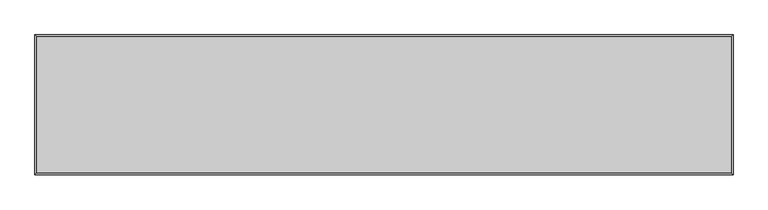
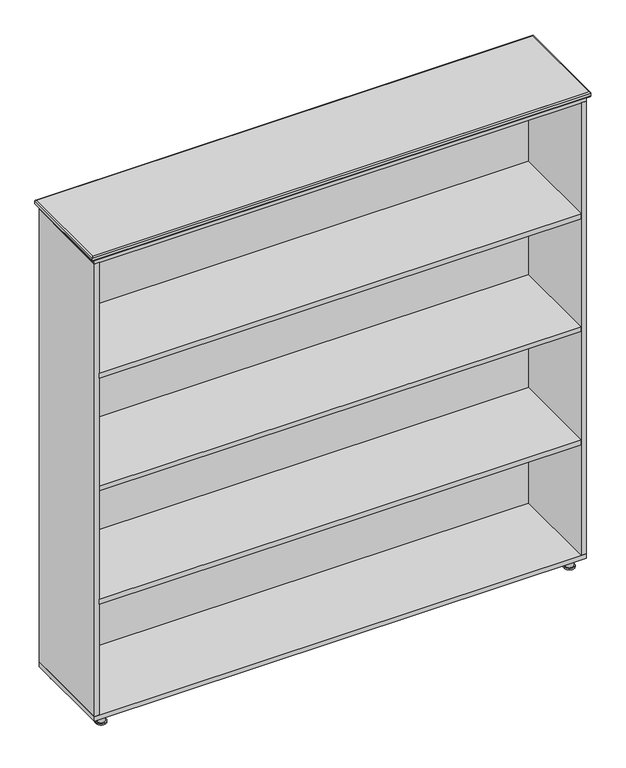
"""IFC4 building model written with IfcOpenShell, lengths in millimetres: furniture geometry, 书柜7 : W800*D419*H1515mm 5."""

from ifc_helpers import new_model, si_unit, point, frame, frame_2d, origin, origin_with_axes, place, context, project, spatial, polyline, circle_curve, ellipse_curve, trimmed, segment, composite_curve, outline, extrude, source, transform, mapped, element, save
from ifc_brep_helpers import plane_surface, cylinder_surface, advanced_brep


def furniture_8a9d21a3(model_context):
    return source(origin(), model_context, "Body", "SolidModel", [
        extrude(outline(polyline([(725.0, 159.2785466), (725.0, -115.0), (-725.0, -115.0), (-725.0, 159.2785466), (725.0, 159.2785466)])), frame((0.0, 0.0, 397.0), z_axis=(0.0, 0.0, 1.0), x_axis=(1.0, 0.0, 0.0)), (0.0, 0.0, 1.0), 16.0),
        extrude(outline(polyline([(725.0, 159.2785466), (725.0, -115.0), (-725.0, -115.0), (-725.0, 159.2785466), (725.0, 159.2785466)])), frame((0.0, 0.0, 1117.0), z_axis=(0.0, 0.0, 1.0), x_axis=(1.0, 0.0, 0.0)), (0.0, 0.0, 1.0), 16.0),
        extrude(outline(polyline([(725.0, 165.0), (725.0, 159.2785466), (-725.0, 159.2785466), (-725.0, 165.0), (725.0, 165.0)])), frame((0.0, 0.0, 45.0), z_axis=(0.0, 0.0, 1.0), x_axis=(1.0, 0.0, 0.0)), (0.0, 0.0, 1.0), 1440.0),
        extrude(outline(composite_curve([segment(trimmed(circle_curve(frame_2d((705.0, 149.3474913)), 11.561262), [point((716.561262, 149.3474913))], [point((693.438738, 149.3474913))], False, "CARTESIAN"), True, "CONTINUOUS"), segment(trimmed(circle_curve(frame_2d((705.0, 149.3474913)), 11.561262), [point((693.438738, 149.3474913))], [point((716.561262, 149.3474913))], False, "CARTESIAN"), True, "CONTINUOUS")], self_intersect=False)), frame((0.0, 0.0, 4.4532093), z_axis=(0.0, 0.0, 1.0), x_axis=(1.0, 0.0, 0.0)), (0.0, 0.0, 1.0), 25.5467907),
        extrude(outline(composite_curve([segment(trimmed(circle_curve(frame_2d((705.0, 149.3474913)), 15.4868656), [point((720.4868656, 149.3474913))], [point((689.5131344, 149.3474913))], False, "CARTESIAN"), True, "CONTINUOUS"), segment(trimmed(circle_curve(frame_2d((705.0, 149.3474913)), 15.4868656), [point((689.5131344, 149.3474913))], [point((720.4868656, 149.3474913))], False, "CARTESIAN"), True, "CONTINUOUS")], self_intersect=False)), origin_with_axes(), (0.0, 0.0, 1.0), 4.4532093),
        extrude(outline(composite_curve([segment(trimmed(circle_curve(frame_2d((-705.0, 149.3474913)), 11.561262), [point((-716.561262, 149.3474913))], [point((-693.438738, 149.3474913))], False, "CARTESIAN"), True, "CONTINUOUS"), segment(trimmed(circle_curve(frame_2d((-705.0, 149.3474913)), 11.561262), [point((-693.438738, 149.3474913))], [point((-716.561262, 149.3474913))], False, "CARTESIAN"), True, "CONTINUOUS")], self_intersect=False)), frame((0.0, 0.0, 4.4532093), z_axis=(0.0, 0.0, 1.0), x_axis=(1.0, 0.0, 0.0)), (0.0, 0.0, 1.0), 25.5467907),
        extrude(outline(composite_curve([segment(trimmed(circle_curve(frame_2d((-705.0, 149.3474913)), 15.4868656), [point((-720.4868656, 149.3474913))], [point((-689.5131344, 149.3474913))], False, "CARTESIAN"), True, "CONTINUOUS"), segment(trimmed(circle_curve(frame_2d((-705.0, 149.3474913)), 15.4868656), [point((-689.5131344, 149.3474913))], [point((-720.4868656, 149.3474913))], False, "CARTESIAN"), True, "CONTINUOUS")], self_intersect=False)), origin_with_axes(), (0.0, 0.0, 1.0), 4.4532093),
        extrude(outline(composite_curve([segment(trimmed(circle_curve(frame_2d((705.0, -88.0)), 11.561262), [point((716.561262, -88.0))], [point((693.438738, -88.0))], False, "CARTESIAN"), True, "CONTINUOUS"), segment(trimmed(circle_curve(frame_2d((705.0, -88.0)), 11.561262), [point((693.438738, -88.0))], [point((716.561262, -88.0))], False, "CARTESIAN"), True, "CONTINUOUS")], self_intersect=False)), frame((0.0, 0.0, 4.4532093), z_axis=(0.0, 0.0, 1.0), x_axis=(1.0, 0.0, 0.0)), (0.0, 0.0, 1.0), 25.5467907),
        extrude(outline(composite_curve([segment(trimmed(circle_curve(frame_2d((705.0, -88.0)), 15.4868656), [point((720.4868656, -88.0))], [point((689.5131344, -88.0))], False, "CARTESIAN"), True, "CONTINUOUS"), segment(trimmed(circle_curve(frame_2d((705.0, -88.0)), 15.4868656), [point((689.5131344, -88.0))], [point((720.4868656, -88.0))], False, "CARTESIAN"), True, "CONTINUOUS")], self_intersect=False)), origin_with_axes(), (0.0, 0.0, 1.0), 4.4532093),
        extrude(outline(composite_curve([segment(trimmed(circle_curve(frame_2d((-705.0, -88.0)), 11.561262), [point((-716.561262, -88.0))], [point((-693.438738, -88.0))], False, "CARTESIAN"), True, "CONTINUOUS"), segment(trimmed(circle_curve(frame_2d((-705.0, -88.0)), 11.561262), [point((-693.438738, -88.0))], [point((-716.561262, -88.0))], False, "CARTESIAN"), True, "CONTINUOUS")], self_intersect=False)), frame((0.0, 0.0, 4.4532093), z_axis=(0.0, 0.0, 1.0), x_axis=(1.0, 0.0, 0.0)), (0.0, 0.0, 1.0), 25.5467907),
        extrude(outline(composite_curve([segment(trimmed(circle_curve(frame_2d((-705.0, -88.0)), 15.4868656), [point((-720.4868656, -88.0))], [point((-689.5131344, -88.0))], False, "CARTESIAN"), True, "CONTINUOUS"), segment(trimmed(circle_curve(frame_2d((-705.0, -88.0)), 15.4868656), [point((-689.5131344, -88.0))], [point((-720.4868656, -88.0))], False, "CARTESIAN"), True, "CONTINUOUS")], self_intersect=False)), origin_with_axes(), (0.0, 0.0, 1.0), 4.4532093),
        advanced_brep(
        [(750.0, 178.0, 1512.0), (747.0, 175.0, 1515.0), (747.0, -119.0, 1515.0), (750.0, -122.0, 1512.0), (750.0, 178.0, 1503.0), (750.0, -122.0, 1503.0), (747.0, 175.0, 1500.0), (747.0, -119.0, 1500.0), (-747.0, -119.0, 1515.0), (-750.0, -122.0, 1512.0), (-750.0, -122.0, 1503.0), (-747.0, -119.0, 1500.0), (-747.0, 175.0, 1515.0), (-750.0, 178.0, 1512.0), (-750.0, 178.0, 1503.0), (-747.0, 175.0, 1500.0)],
        [
            (0, 1, ellipse_curve(frame((747.0, 175.0, 1512.0), z_axis=(0.7071067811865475, -0.7071067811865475, 0.0), x_axis=(0.7071067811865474, 0.7071067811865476, 0.0)), 4.2426407, 3.0)),
            (1, 2),
            (2, 3, ellipse_curve(frame((747.0, -119.0, 1512.0), z_axis=(0.7071067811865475, 0.7071067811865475, 0.0), x_axis=(-0.7071067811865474, 0.7071067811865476, 0.0)), 4.2426407, 3.0)),
            (3, 0),
            (4, 0),
            (3, 5),
            (5, 4),
            (6, 4, ellipse_curve(frame((747.0, 175.0, 1503.0), z_axis=(0.7071067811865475, -0.7071067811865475, 0.0), x_axis=(0.7071067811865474, 0.7071067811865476, 0.0)), 4.2426407, 3.0)),
            (5, 7, ellipse_curve(frame((747.0, -119.0, 1503.0), z_axis=(0.7071067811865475, 0.7071067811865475, 0.0), x_axis=(-0.7071067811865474, 0.7071067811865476, 0.0)), 4.2426407, 3.0)),
            (7, 6),
            (1, 6),
            (7, 2),
            (2, 8),
            (8, 9, ellipse_curve(frame((-747.0, -119.0, 1512.0), z_axis=(0.7071067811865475, -0.7071067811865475, 0.0), x_axis=(0.7071067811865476, 0.7071067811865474, 0.0)), 4.2426407, 3.0)),
            (9, 3),
            (9, 10),
            (10, 5),
            (10, 11, ellipse_curve(frame((-747.0, -119.0, 1503.0), z_axis=(0.7071067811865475, -0.7071067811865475, 0.0), x_axis=(0.7071067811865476, 0.7071067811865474, 0.0)), 4.2426407, 3.0)),
            (11, 7),
            (11, 8),
            (8, 12),
            (12, 13, ellipse_curve(frame((-747.0, 175.0, 1512.0), z_axis=(-0.7071067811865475, -0.7071067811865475, 0.0), x_axis=(0.7071067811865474, -0.7071067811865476, 0.0)), 4.2426407, 3.0)),
            (13, 9),
            (13, 14),
            (14, 10),
            (14, 15, ellipse_curve(frame((-747.0, 175.0, 1503.0), z_axis=(-0.7071067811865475, -0.7071067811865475, 0.0), x_axis=(0.7071067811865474, -0.7071067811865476, 0.0)), 4.2426407, 3.0)),
            (15, 11),
            (15, 12),
            (12, 1),
            (0, 13),
            (4, 14),
            (6, 15),
        ],
        [
            cylinder_surface(frame((747.0, 178.0, 1512.0), z_axis=(0.0, 1.0, 0.0), x_axis=(1.0, 0.0, 0.0)), 3.0),
            plane_surface(frame((750.0, 178.0, 1512.0), z_axis=(1.0, 0.0, 0.0), x_axis=(0.0, -1.0, 0.0))),
            cylinder_surface(frame((747.0, 178.0, 1503.0), z_axis=(0.0, 1.0, 0.0), x_axis=(1.0, 0.0, 0.0)), 3.0),
            plane_surface(frame((747.0, 175.0, 1500.0), z_axis=(-1.0, 0.0, 0.0), x_axis=(0.0, -1.0, 0.0))),
            cylinder_surface(frame((750.0, -119.0, 1512.0), z_axis=(1.0, 0.0, 0.0), x_axis=(0.0, -1.0, 0.0)), 3.0),
            plane_surface(frame((750.0, -122.0, 1512.0), z_axis=(0.0, -1.0, 0.0), x_axis=(-1.0, 0.0, 0.0))),
            cylinder_surface(frame((750.0, -119.0, 1503.0), z_axis=(1.0, 0.0, 0.0), x_axis=(0.0, -1.0, 0.0)), 3.0),
            plane_surface(frame((747.0, -119.0, 1500.0), z_axis=(0.0, 1.0, 0.0), x_axis=(-1.0, 0.0, 0.0))),
            cylinder_surface(frame((-747.0, -122.0, 1512.0), z_axis=(0.0, -1.0, 0.0), x_axis=(-1.0, 0.0, 0.0)), 3.0),
            plane_surface(frame((-750.0, -122.0, 1512.0), z_axis=(-1.0, 0.0, 0.0), x_axis=(0.0, 1.0, 0.0))),
            cylinder_surface(frame((-747.0, -122.0, 1503.0), z_axis=(0.0, -1.0, 0.0), x_axis=(-1.0, 0.0, 0.0)), 3.0),
            plane_surface(frame((-747.0, -119.0, 1500.0), z_axis=(1.0, 0.0, 0.0), x_axis=(0.0, 1.0, 0.0))),
            cylinder_surface(frame((-750.0, 175.0, 1512.0), z_axis=(-1.0, 0.0, 0.0), x_axis=(0.0, 1.0, 0.0)), 3.0),
            plane_surface(frame((-750.0, 178.0, 1512.0), z_axis=(0.0, 1.0, 0.0), x_axis=(1.0, 0.0, 0.0))),
            cylinder_surface(frame((-750.0, 175.0, 1503.0), z_axis=(-1.0, 0.0, 0.0), x_axis=(0.0, 1.0, 0.0)), 3.0),
            plane_surface(frame((-747.0, 175.0, 1500.0), z_axis=(0.0, -1.0, 0.0), x_axis=(1.0, 0.0, 0.0))),
        ],
        [
            (0, [[1, 2, 3, 4]]),
            (1, [[5, -4, 6, 7]]),
            (2, [[8, -7, 9, 10]]),
            (3, [[11, -10, 12, -2]]),
            (4, [[-3, 13, 14, 15]]),
            (5, [[-6, -15, 16, 17]]),
            (6, [[-9, -17, 18, 19]]),
            (7, [[-12, -19, 20, -13]]),
            (8, [[-14, 21, 22, 23]]),
            (9, [[-16, -23, 24, 25]]),
            (10, [[-18, -25, 26, 27]]),
            (11, [[-20, -27, 28, -21]]),
            (12, [[-22, 29, -1, 30]]),
            (13, [[-24, -30, -5, 31]]),
            (14, [[-26, -31, -8, 32]]),
            (15, [[-28, -32, -11, -29]]),
        ],
    ),
        extrude(outline(polyline([(747.0, 175.0), (747.0, -119.0), (-747.0, -119.0), (-747.0, 175.0), (747.0, 175.0)])), frame((0.0, 0.0, 1500.0), z_axis=(0.0, 0.0, 1.0), x_axis=(1.0, 0.0, 0.0)), (0.0, 0.0, 1.0), 15.0),
        extrude(outline(polyline([(725.0, -115.0), (725.0, 172.0), (740.0, 172.0), (740.0, -115.0), (725.0, -115.0)])), frame((0.0, 0.0, 45.0), z_axis=(0.0, 0.0, 1.0), x_axis=(1.0, 0.0, 0.0)), (0.0, 0.0, 1.0), 1440.0),
        extrude(outline(polyline([(-725.0, 172.0), (-725.0, -115.0), (-740.0, -115.0), (-740.0, 172.0), (-725.0, 172.0)])), frame((0.0, 0.0, 45.0), z_axis=(0.0, 0.0, 1.0), x_axis=(1.0, 0.0, 0.0)), (0.0, 0.0, 1.0), 1440.0),
        extrude(outline(polyline([(725.0, 159.2785466), (725.0, -115.0), (-725.0, -115.0), (-725.0, 159.2785466), (725.0, 159.2785466)])), frame((0.0, 0.0, 757.5), z_axis=(0.0, 0.0, 1.0), x_axis=(1.0, 0.0, 0.0)), (0.0, 0.0, 1.0), 15.0),
        extrude(outline(polyline([(740.0, -115.0), (-740.0, -115.0), (-740.0, 172.0), (740.0, 172.0), (740.0, -115.0)])), frame((0.0, 0.0, 1485.0), z_axis=(0.0, 0.0, 1.0), x_axis=(1.0, 0.0, 0.0)), (0.0, 0.0, 1.0), 15.0),
        extrude(outline(polyline([(740.0, -115.0), (-740.0, -115.0), (-740.0, 172.0), (740.0, 172.0), (740.0, -115.0)])), frame((0.0, 0.0, 30.0), z_axis=(0.0, 0.0, 1.0), x_axis=(1.0, 0.0, 0.0)), (0.0, 0.0, 1.0), 15.0),
    ])


if __name__ == "__main__":
    model = new_model("IFC4")
    model_context = context("Model", 3, world=origin())
    ifc_project = project(units=[si_unit("LENGTHUNIT", "METRE", prefix="MILLI")], contexts=[model_context])
    site = spatial("IfcSite", under=ifc_project)
    building = spatial("IfcBuilding", under=site)
    placement = place(None, origin())
    furniture_shape = furniture_8a9d21a3(model_context)
    element("IfcFurniture", 1, ObjectType="书柜7 : W800*D419*H1515mm 5", at=placement, inside=building, context=model_context, shape_type="MappedRepresentation", body=[
        mapped(furniture_shape, transform((0.0, 0.0, 0.0), x_axis=(1.0, 0.0, 0.0), y_axis=(0.0, 1.0, 0.0), z_axis=(0.0, 0.0, 1.0))),
    ])
    save(model, "model.ifc")
